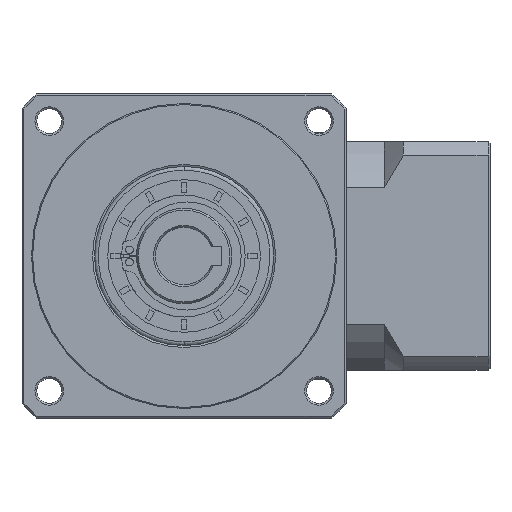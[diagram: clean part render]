
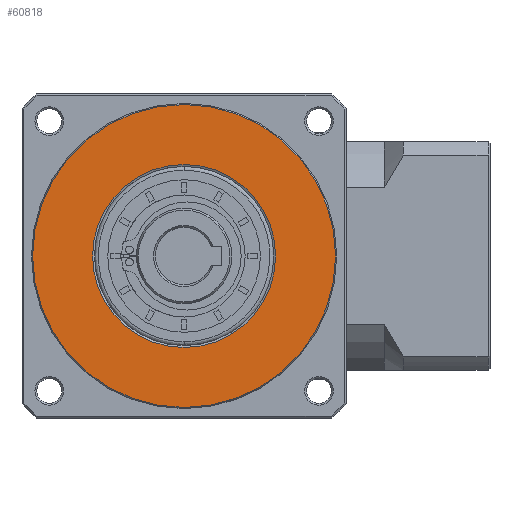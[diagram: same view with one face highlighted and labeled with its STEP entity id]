
A CAD part, left-side view. The second image highlights one B-rep face of the part: STEP entity #60818.
In plain terms, the highlighted planar face has unit normal (-1, 0, 0).
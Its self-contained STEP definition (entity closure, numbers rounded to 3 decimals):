
#9236 = DIRECTION ( 'NONE',  ( 1., 0., 0. ) ) ;
#10504 = DIRECTION ( 'NONE',  ( 1., 0., 0. ) ) ;
#17264 = CIRCLE ( 'NONE', #20952, 39.711 ) ;
#20952 = AXIS2_PLACEMENT_3D ( 'NONE', #87889, #9236, #101029 ) ;
#30490 = AXIS2_PLACEMENT_3D ( 'NONE', #89197, #10504, #102283 ) ;
#38206 = AXIS2_PLACEMENT_3D ( 'NONE', #154668, #76284, #167877 ) ;
#40166 = EDGE_CURVE ( 'NONE', #48817, #112957, #17264, .T. ) ;
#47721 = DIRECTION ( 'NONE',  ( -1., 0., 0. ) ) ;
#48817 = VERTEX_POINT ( 'NONE', #82915 ) ;
#56477 = CIRCLE ( 'NONE', #30490, 24. ) ;
#60353 = PLANE ( 'NONE',  #131243 ) ;
#60818 = ADVANCED_FACE ( 'NONE', ( #147118, #143023 ), #60353, .T. ) ;
#61599 = CIRCLE ( 'NONE', #159575, 39.711 ) ;
#68343 = CARTESIAN_POINT ( 'NONE',  ( -59.212, 90.044, -5.04 ) ) ;
#70282 = ORIENTED_EDGE ( 'NONE', *, *, #40166, .F. ) ;
#73024 = ORIENTED_EDGE ( 'NONE', *, *, #130255, .T. ) ;
#76284 = DIRECTION ( 'NONE',  ( 1., 0., 0. ) ) ;
#80967 = EDGE_LOOP ( 'NONE', ( #107494, #73024 ) ) ;
#81431 = CARTESIAN_POINT ( 'NONE',  ( -59.212, 129.755, -5.04 ) ) ;
#81550 = DIRECTION ( 'NONE',  ( 0., 1., 0. ) ) ;
#82915 = CARTESIAN_POINT ( 'NONE',  ( -59.212, 50.333, -5.04 ) ) ;
#84227 = EDGE_CURVE ( 'NONE', #112957, #48817, #61599, .T. ) ;
#87889 = CARTESIAN_POINT ( 'NONE',  ( -59.212, 90.044, -5.04 ) ) ;
#89197 = CARTESIAN_POINT ( 'NONE',  ( -59.212, 90.044, -5.04 ) ) ;
#98932 = CARTESIAN_POINT ( 'NONE',  ( -59.212, 90.044, -29.04 ) ) ;
#101029 = DIRECTION ( 'NONE',  ( 0., 1., 0. ) ) ;
#102283 = DIRECTION ( 'NONE',  ( 0., 0., -1. ) ) ;
#107494 = ORIENTED_EDGE ( 'NONE', *, *, #129708, .T. ) ;
#112957 = VERTEX_POINT ( 'NONE', #81431 ) ;
#126210 = CARTESIAN_POINT ( 'NONE',  ( -59.212, 90.044, -5.04 ) ) ;
#129708 = EDGE_CURVE ( 'NONE', #156236, #129762, #56477, .T. ) ;
#129762 = VERTEX_POINT ( 'NONE', #130834 ) ;
#130255 = EDGE_CURVE ( 'NONE', #129762, #156236, #154342, .T. ) ;
#130834 = CARTESIAN_POINT ( 'NONE',  ( -59.212, 90.044, 18.96 ) ) ;
#131243 = AXIS2_PLACEMENT_3D ( 'NONE', #126210, #47721, #139376 ) ;
#139376 = DIRECTION ( 'NONE',  ( 0., 0., -1. ) ) ;
#143023 = FACE_BOUND ( 'NONE', #80967, .T. ) ;
#146243 = EDGE_LOOP ( 'NONE', ( #153297, #70282 ) ) ;
#147118 = FACE_OUTER_BOUND ( 'NONE', #146243, .T. ) ;
#153297 = ORIENTED_EDGE ( 'NONE', *, *, #84227, .F. ) ;
#154342 = CIRCLE ( 'NONE', #38206, 24. ) ;
#154668 = CARTESIAN_POINT ( 'NONE',  ( -59.212, 90.044, -5.04 ) ) ;
#156236 = VERTEX_POINT ( 'NONE', #98932 ) ;
#159575 = AXIS2_PLACEMENT_3D ( 'NONE', #68343, #159867, #81550 ) ;
#159867 = DIRECTION ( 'NONE',  ( 1., 0., 0. ) ) ;
#167877 = DIRECTION ( 'NONE',  ( 0., 0., -1. ) ) ;
